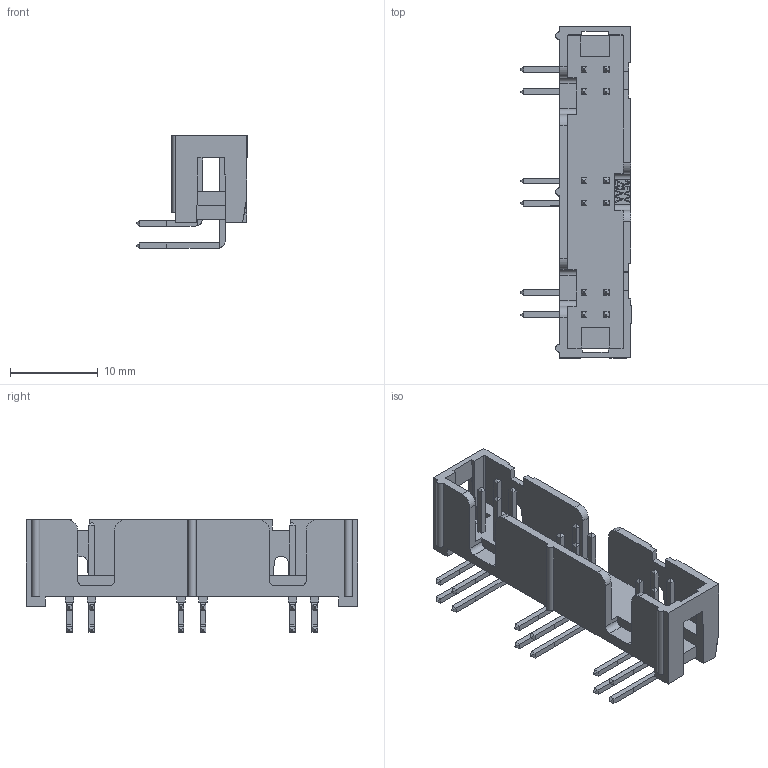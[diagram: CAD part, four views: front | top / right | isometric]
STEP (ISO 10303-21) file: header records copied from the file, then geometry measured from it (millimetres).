
FILE_DESCRIPTION(/* description */ (''),/* implementation_level */ '2;1');
FILE_NAME(/* name */ '2520-5002-XX_STEP.stp',/* time_stamp */ '2011-08-15T08:55:58-05:00',/* author */ (''),/* organization */ (''),/* preprocessor_version */ 'ST-DEVELOPER v11',/* originating_system */ 'SIEMENS PLM Software NX 7.5',/* authorisation */ '');
FILE_SCHEMA (('CONFIG_CONTROL_DESIGN'));
Length unit declared in the file: inch
Products named in the file (1): 78-5110-0049-5
Bounding box: 12.62 x 37.8 x 12.87 mm (x, y, z)
Volume: 1163 mm3; surface area: 2410.8 mm2
Topology: 1 solids, 1 shells, 589 faces, 1543 edges, 990 vertices
Faces by surface type: plane 523, cylinder 49, extrusion 17
Entity records: 18307 total; most frequent: CARTESIAN_POINT 3885, ORIENTED_EDGE 3086, DIRECTION 2697, EDGE_CURVE 1543, VECTOR 1331, LINE 1314, VERTEX_POINT 990, AXIS2_PLACEMENT_3D 683
